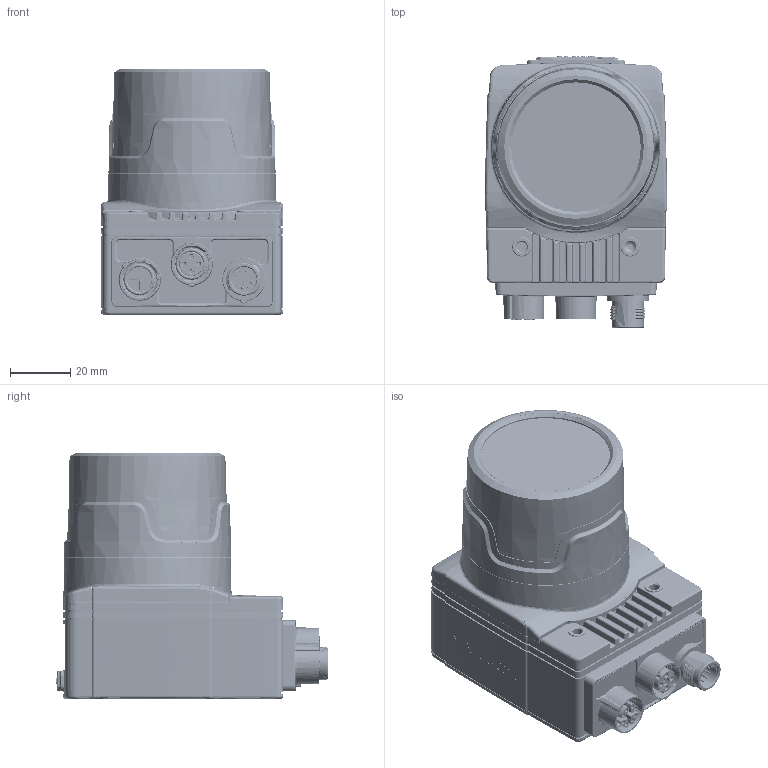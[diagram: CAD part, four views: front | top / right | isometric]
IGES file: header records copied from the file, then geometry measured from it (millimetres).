
Start section: SolidWorks IGES file using analytic representation for surfaces
Global section: file name: Y:\IS016\IS016-02\IS016-02_5-12-17.IGS; native system: SolidWorks 2017; preprocessor: SolidWorks 2017; author: rgainer; date: 170522.090025; units: millimetre
Bounding box: 60.5 x 90.09 x 81.8 mm (x, y, z)
Surface area: 68294.5 mm2 (no closed solid volume)
Topology: 0 solids, 0 shells, 11896 faces, 99288 edges, 99191 vertices
Faces by surface type: bspline 10134, revolution 1762
